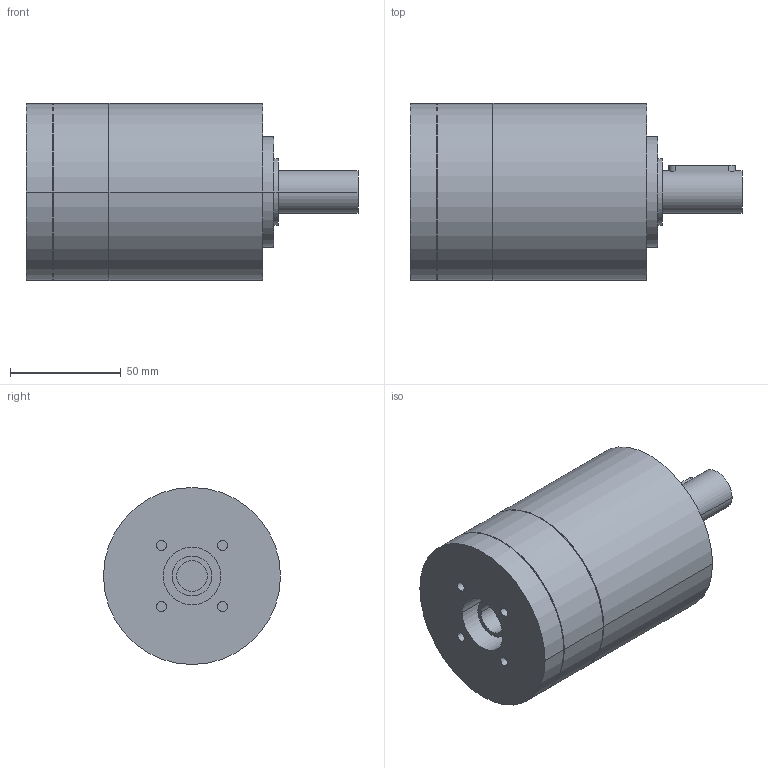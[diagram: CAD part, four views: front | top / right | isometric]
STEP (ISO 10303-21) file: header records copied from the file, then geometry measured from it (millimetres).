
FILE_DESCRIPTION(('CoCreate Modeling STEP Export'),'2;1');
FILE_NAME('GPR100_ig-3-4-5-6_19_B14_14_P09.stp','2014-08-26T10:07:07',(''),(''),'CoCreate Modeling STEP processor for AP214 (Solid Model)','CoCreate Modeling 16.00C 25-Feb-2009 (C) Parametric Technology GmbH','');
FILE_SCHEMA(('AUTOMOTIVE_DESIGN { 1 0 10303 214 1 1 1 1 }'));
Length unit declared in the file: millimetre
Products named in the file (2): GPR100_ig-3-4-5-6_19_B14_14_P09
Assembly tree (1 placements, depth 2):
  GPR100_ig-3-4-5-6_19_B14_14_P09
    GPR100_ig-3-4-5-6_19_B14_14_P09
Bounding box: 150 x 80 x 80 mm (x, y, z)
Volume: 547080.7 mm3; surface area: 45665.1 mm2
Topology: 1 solids, 1 shells, 77 faces, 197 edges, 141 vertices
Faces by surface type: cylinder 46, plane 25, cone 6
Entity records: 1971 total; most frequent: ORIENTED_EDGE 390, CARTESIAN_POINT 361, DIRECTION 254, EDGE_CURVE 195, VERTEX_POINT 141, AXIS2_PLACEMENT_3D 98, EDGE_LOOP 98, FACE_OUTER_BOUND 77
